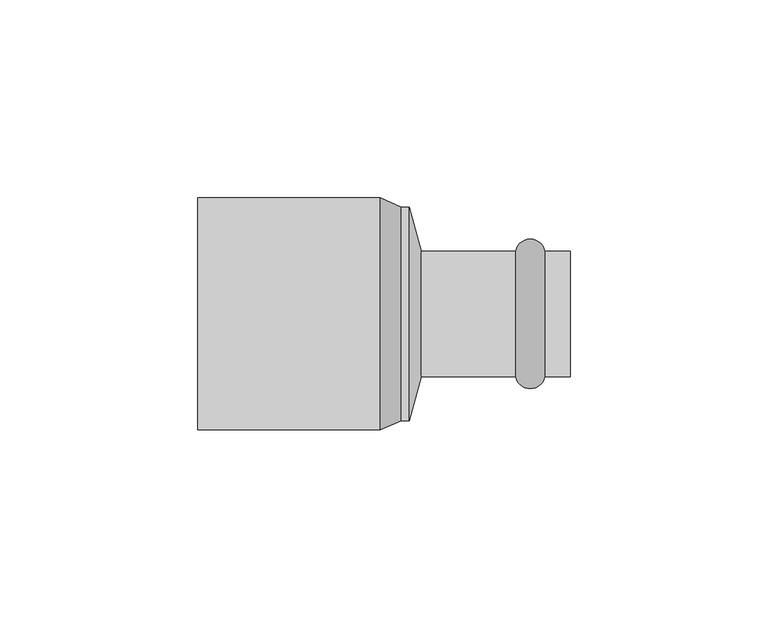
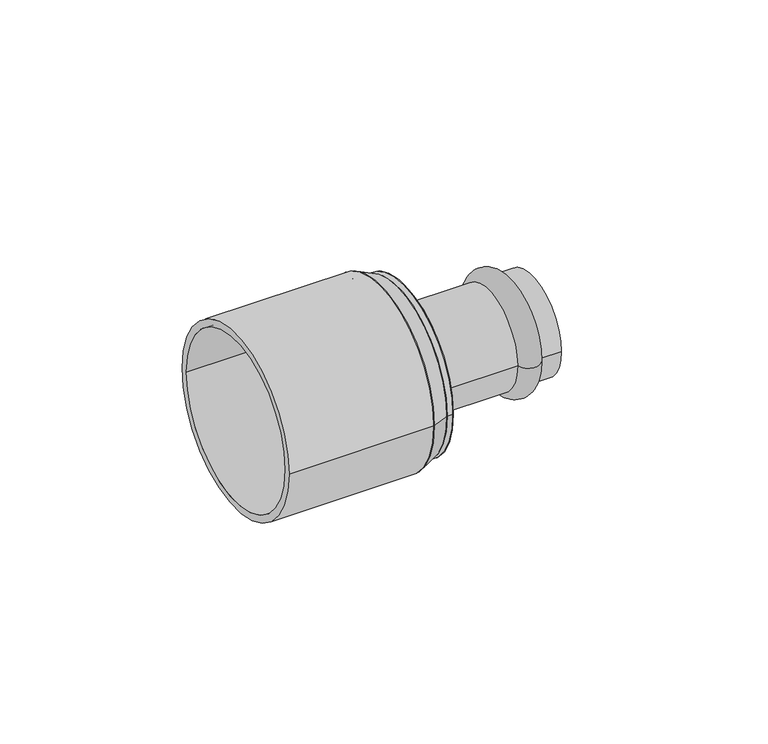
"""IFC4 building model written with IfcOpenShell, lengths in millimetres: pipe fitting geometry, VALTEC_VTi.905.I_Вставка переходная_Нержавеющая сталь : VTi.905.I."""

from ifc_helpers import new_model, si_unit, point, frame, origin, origin_2d, place, context, project, spatial, polyline, circle_curve, ellipse_curve, trimmed, segment, composite_curve, outline, extrude, source, transform, mapped, element, save
from ifc_brep_helpers import plane_surface, cylinder_surface, revolved_surface, advanced_brep


def pipe_fitting_f4b1b91b(model_context):
    return source(origin(), model_context, "Body", "SolidModel", [
        advanced_brep(
        [(40.6242346, -15.9, 0.0), (33.2757654, -15.9, 0.0), (33.2757654, 15.9, 0.0), (40.6242346, 15.9, 0.0), (47.0, -15.9, 0.0), (47.0, 15.9, 0.0), (47.0, -14.0, 0.0), (47.0, 14.0, 0.0), (9.4, -14.0, 0.0), (9.4, 14.0, 0.0), (9.4, -15.9, 0.0), (9.4, 15.9, 0.0)],
        [
            (0, 1, circle_curve(frame((36.95, -15.15, 0.0), z_axis=(0.0, 0.0, -1.0), x_axis=(-1.0, 0.0, 0.0)), 3.75)),
            (1, 2, circle_curve(frame((33.2757654, 0.0, 0.0), z_axis=(1.0, 0.0, 0.0), x_axis=(0.0, 1.0, 0.0)), 15.9)),
            (2, 3, circle_curve(frame((36.95, 15.15, 0.0), z_axis=(0.0, 0.0, -1.0), x_axis=(-1.0, 0.0, 0.0)), 3.75)),
            (3, 0, circle_curve(frame((40.6242346, 0.0, 0.0), z_axis=(-1.0, 0.0, 0.0), x_axis=(0.0, 1.0, 0.0)), 15.9)),
            (2, 1, circle_curve(frame((33.2757654, 0.0, 0.0), z_axis=(1.0, 0.0, 0.0), x_axis=(0.0, 1.0, 0.0)), 15.9)),
            (0, 3, circle_curve(frame((40.6242346, 0.0, 0.0), z_axis=(-1.0, 0.0, 0.0), x_axis=(0.0, 1.0, 0.0)), 15.9)),
            (4, 0),
            (3, 5),
            (5, 4, circle_curve(frame((47.0, 0.0, 0.0), z_axis=(-1.0, 0.0, 0.0), x_axis=(0.0, 1.0, 0.0)), 15.9)),
            (4, 5, circle_curve(frame((47.0, 0.0, 0.0), z_axis=(-1.0, 0.0, 0.0), x_axis=(0.0, 1.0, 0.0)), 15.9)),
            (6, 4),
            (5, 7),
            (7, 6, circle_curve(frame((47.0, 0.0, 0.0), z_axis=(-1.0, 0.0, 0.0), x_axis=(0.0, 1.0, 0.0)), 14.0)),
            (6, 7, circle_curve(frame((47.0, 0.0, 0.0), z_axis=(-1.0, 0.0, 0.0), x_axis=(0.0, 1.0, 0.0)), 14.0)),
            (8, 6),
            (7, 9),
            (9, 8, circle_curve(frame((9.4, 0.0, 0.0), z_axis=(-1.0, 0.0, 0.0), x_axis=(0.0, 1.0, 0.0)), 14.0)),
            (8, 9, circle_curve(frame((9.4, 0.0, 0.0), z_axis=(-1.0, 0.0, 0.0), x_axis=(0.0, 1.0, 0.0)), 14.0)),
            (10, 8),
            (9, 11),
            (11, 10, circle_curve(frame((9.4, 0.0, 0.0), z_axis=(-1.0, 0.0, 0.0), x_axis=(0.0, 1.0, 0.0)), 15.9)),
            (10, 11, circle_curve(frame((9.4, 0.0, 0.0), z_axis=(-1.0, 0.0, 0.0), x_axis=(0.0, 1.0, 0.0)), 15.9)),
            (1, 10),
            (11, 2),
        ],
        [
            revolved_surface(trimmed(ellipse_curve(frame((36.95, 15.15, 0.0), z_axis=(0.0, 0.0, -1.0), x_axis=(-1.0, 0.0, 0.0)), 3.75, 3.75), [point((33.2757654, 15.9, 0.0))], [point((40.6242346, 15.9, 0.0))], True, "CARTESIAN"), (50.5364426, 0.0, 0.0), (1.0, 0.0, 0.0)),
            cylinder_surface(frame((50.5364426, 0.0, 0.0), z_axis=(1.0, 0.0, 0.0), x_axis=(0.0, 1.0, 0.0)), 15.9),
            plane_surface(frame((47.0, 0.0, 0.0), z_axis=(1.0, 0.0, 0.0), x_axis=(0.0, 1.0, 0.0))),
            revolved_surface(polyline([(47.0, 14.0, 0.0), (9.399999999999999, 14.0, 0.0)]), (50.5364426, 0.0, 0.0), (1.0, 0.0, 0.0)),
            plane_surface(frame((9.4, 0.0, 0.0), z_axis=(-1.0, 0.0, 0.0), x_axis=(0.0, 1.0, 0.0))),
        ],
        [
            (0, [[1, 2, 3, 4]]),
            (0, [[-3, 5, -1, 6]]),
            (1, [[7, -4, 8, 9]]),
            (1, [[-8, -6, -7, 10]]),
            (2, [[11, -9, 12, 13]]),
            (2, [[-12, -10, -11, 14]]),
            (3, [[15, -13, 16, 17]]),
            (3, [[-16, -14, -15, 18]]),
            (4, [[19, -17, 20, 21]]),
            (4, [[-20, -18, -19, 22]]),
            (1, [[23, -21, 24, -2]]),
            (1, [[-24, -22, -23, -5]]),
        ],
    ),
        advanced_brep(
        [(6.4, -27.0, 0.0), (6.4, 27.0, 0.0), (9.4, -15.9, 0.0), (9.4, 15.9, 0.0)],
        [
            (0, 1, circle_curve(frame((6.4, 0.0, 0.0), z_axis=(-1.0, 0.0, 0.0), x_axis=(0.0, -1.0, 0.0)), 27.0)),
            (1, 0, circle_curve(frame((6.4, 0.0, 0.0), z_axis=(-1.0, 0.0, 0.0), x_axis=(0.0, 1.0, 0.0)), 27.0)),
            (2, 3, circle_curve(frame((9.4, 0.0, 0.0), z_axis=(1.0, 0.0, 0.0), x_axis=(0.0, 1.0, 0.0)), 15.9)),
            (3, 2, circle_curve(frame((9.4, 0.0, 0.0), z_axis=(1.0, 0.0, 0.0), x_axis=(0.0, -1.0, 0.0)), 15.9)),
            (2, 0),
            (1, 3),
        ],
        [
            plane_surface(frame((6.4, 0.0, 0.0), z_axis=(-1.0, 0.0, 0.0), x_axis=(0.0, 0.0, 1.0))),
            plane_surface(frame((9.4, 0.0, 0.0), z_axis=(1.0, 0.0, 0.0), x_axis=(0.0, 0.0, 1.0))),
            revolved_surface(polyline([(9.4, -15.900000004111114, 0.0), (6.4, -27.0, 0.0)]), (13.6972973, 0.0, 0.0), (-1.0, 0.0, 0.0)),
            revolved_surface(polyline([(9.4, 15.900000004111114, 0.0), (6.4, 27.0, 0.0)]), (13.6972973, 0.0, 0.0), (-1.0, 0.0, 0.0)),
        ],
        [
            (0, [[1, 2]]),
            (1, [[3, 4]]),
            (2, [[-3, 5, -2, 6]]),
            (3, [[-4, -6, -1, -5]]),
        ],
    ),
        extrude(outline(composite_curve([segment(trimmed(circle_curve(origin_2d(), 27.0), [point((-27.0, 0.0))], [point((27.0, 0.0))], False, "CARTESIAN"), True, "CONTINUOUS"), segment(trimmed(circle_curve(origin_2d(), 27.0), [point((27.0, 0.0))], [point((-27.0, 0.0))], False, "CARTESIAN"), True, "CONTINUOUS")], self_intersect=False)), frame((4.4, 0.0, 0.0), z_axis=(1.0, 0.0, 0.0), x_axis=(0.0, 1.0, 0.0)), (0.0, 0.0, 1.0), 2.0),
        advanced_brep(
        [(4.4, -27.0, 0.0), (4.4, 27.0, 0.0), (-1.0, -29.3, 0.0), (-1.0, 29.3, 0.0)],
        [
            (0, 1, circle_curve(frame((4.4, 0.0, 0.0), z_axis=(1.0, 0.0, 0.0), x_axis=(0.0, -1.0, 0.0)), 27.0)),
            (1, 0, circle_curve(frame((4.4, 0.0, 0.0), z_axis=(1.0, 0.0, 0.0), x_axis=(0.0, 1.0, 0.0)), 27.0)),
            (2, 3, circle_curve(frame((-1.0, 0.0, 0.0), z_axis=(-1.0, 0.0, 0.0), x_axis=(0.0, 1.0, 0.0)), 29.3)),
            (3, 2, circle_curve(frame((-1.0, 0.0, 0.0), z_axis=(-1.0, 0.0, 0.0), x_axis=(0.0, -1.0, 0.0)), 29.3)),
            (3, 1),
            (0, 2),
        ],
        [
            plane_surface(frame((4.4, 0.0, 0.0), z_axis=(1.0, 0.0, 0.0), x_axis=(0.0, 0.0, -1.0))),
            plane_surface(frame((-1.0, 0.0, 0.0), z_axis=(-1.0, 0.0, 0.0), x_axis=(0.0, 0.0, -1.0))),
            revolved_surface(polyline([(4.399999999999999, -26.999999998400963, 0.0), (-1.0, -29.3, 0.0)]), (67.7913043, 0.0, 0.0), (-1.0, 0.0, 0.0)),
            revolved_surface(polyline([(4.399999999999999, 26.999999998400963, 0.0), (-1.0, 29.3, 0.0)]), (67.7913043, 0.0, 0.0), (-1.0, 0.0, 0.0)),
        ],
        [
            (0, [[1, 2]]),
            (1, [[3, 4]]),
            (2, [[-4, 5, -1, 6]]),
            (3, [[-3, -6, -2, -5]]),
        ],
    ),
        extrude(outline(composite_curve([segment(trimmed(circle_curve(origin_2d(), 29.3), [point((-29.3, 0.0))], [point((29.3, 0.0))], False, "CARTESIAN"), True, "CONTINUOUS"), segment(trimmed(circle_curve(origin_2d(), 29.3), [point((29.3, 0.0))], [point((-29.3, 0.0))], False, "CARTESIAN"), True, "CONTINUOUS")], self_intersect=False), holes=[composite_curve([segment(trimmed(circle_curve(origin_2d(), 27.0), [point((-27.0, 0.0))], [point((27.0, 0.0))], True, "CARTESIAN"), True, "CONTINUOUS"), segment(trimmed(circle_curve(origin_2d(), 27.0), [point((27.0, 0.0))], [point((-27.0, 0.0))], True, "CARTESIAN"), True, "CONTINUOUS")], self_intersect=False)]), frame((-47.0, 0.0, 0.0), z_axis=(1.0, 0.0, 0.0), x_axis=(0.0, 1.0, 0.0)), (0.0, 0.0, 1.0), 46.0),
    ])


if __name__ == "__main__":
    model = new_model("IFC4")
    model_context = context("Model", 3, world=origin())
    ifc_project = project(units=[si_unit("LENGTHUNIT", "METRE", prefix="MILLI")], contexts=[model_context])
    site = spatial("IfcSite", under=ifc_project)
    building = spatial("IfcBuilding", under=site)
    placement = place(None, origin())
    pipe_fitting_shape = pipe_fitting_f4b1b91b(model_context)
    element("IfcPipeFitting", 1, ObjectType="VALTEC_VTi.905.I_Вставка переходная_Нержавеющая сталь : VTi.905.I", at=placement, inside=building, context=model_context, shape_type="MappedRepresentation", body=[
        mapped(pipe_fitting_shape, transform((0.0, 0.0, 0.0), x_axis=(1.0, 0.0, 0.0), y_axis=(0.0, 1.0, 0.0), z_axis=(0.0, 0.0, 1.0))),
    ])
    save(model, "model.ifc")
